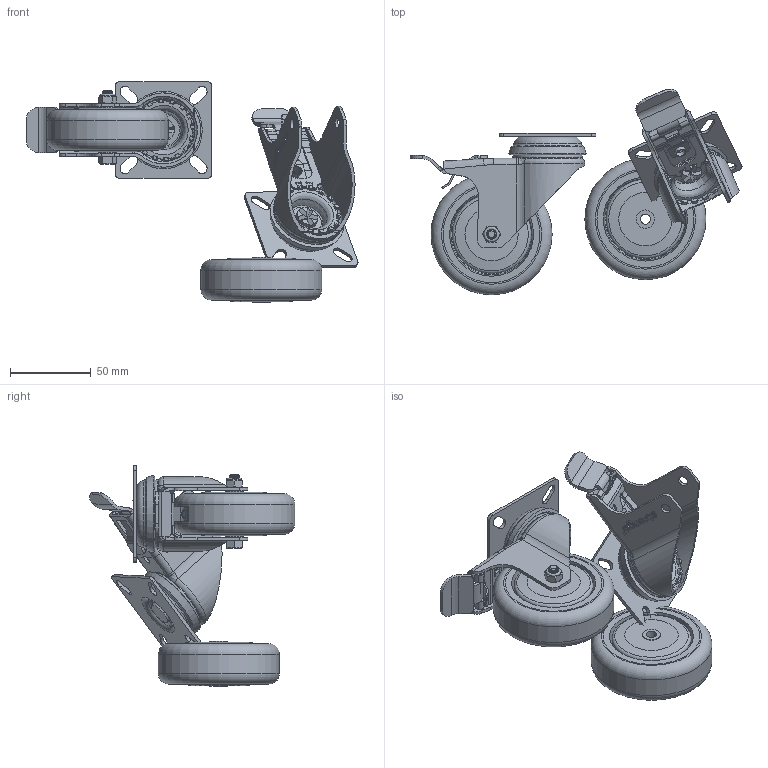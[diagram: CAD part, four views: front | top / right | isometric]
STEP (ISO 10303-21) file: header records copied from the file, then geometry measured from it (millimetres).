
FILE_DESCRIPTION(('STEP AP203'),'1');
FILE_NAME('E:/Pomoc/Strongo/344h39J075rZPC.stp',' ',(' '),(' '),'XStep 1.0',' ',' ');
FILE_SCHEMA(('CONFIG_CONTROL_DESIGN'));
Length unit declared in the file: metre
Products named in the file (3): Assembly196; Assembly214; Assembly104
Bounding box: 205.64 x 127.34 x 136.79 mm (x, y, z)
Volume: 221234.7 mm3; surface area: 177655.6 mm2
Topology: 118 solids, 118 shells, 3158 faces, 8822 edges, 5826 vertices
Faces by surface type: plane 2308, cylinder 487, cone 165, sphere 90, torus 75, bspline 33
Full cylindrical faces by diameter (mm): 2.076 x4, 4.014 x2, 5 x1, 5.6 x2, 6 x15, 6.3 x10, 6.6 x2, 9.8 x2, 10 x6, 10.2 x6, 11.3 x4, 13.4 x4, 13.5 x2, 14 x4, 22.4 x4, 23 x4, 26 x4, 27 x2, 39.02 x2, 43 x2, 47.4 x4, 49 x4, 60 x4, 75 x2
Entity records: 53784 total; most frequent: CARTESIAN_POINT 13769, ORIENTED_EDGE 8346, DIRECTION 7844, EDGE_CURVE 4173, LINE 3300, VECTOR 3300, VERTEX_POINT 2813, AXIS2_PLACEMENT_3D 2272
